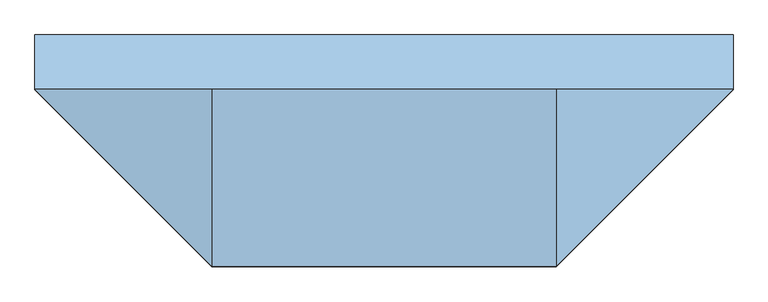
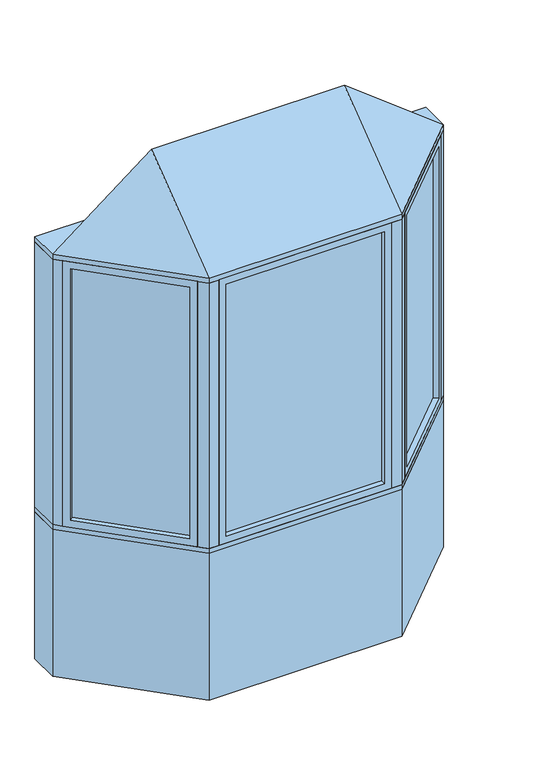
"""IFC4 building model written with IfcOpenShell, lengths in millimetres: window geometry, Pollard_Windows_Tudor Casement Bows and Bays : AML-BAY 45 AFR0614-08-600."""

from ifc_helpers import new_model, si_unit, frame, origin, origin_with_axes, place, context, project, spatial, polyline, outline, extrude, faceted_brep, source, transform, mapped, element, save


def window_c93a87d1(model_context):
    return source(origin(), model_context, "Body", "SolidModel", [
        extrude(outline(polyline([(910.5964271, -104.763169), (514.974814, -500.3847822), (511.3827115, -496.7926797), (907.0043247, -101.1710666), (910.5964271, -104.763169)])), frame((0.0, 0.0, 823.1628), z_axis=(0.0, 0.0, 1.0), x_axis=(1.0, 0.0, 0.0)), (0.0, 0.0, 1.0), 1353.6704),
        faceted_brep([(901.616171, -113.7434252, 835.8628), (919.5766833, -131.7039374, 835.8628), (919.5766833, -131.7039374, 2164.1332), (901.616171, -113.7434252, 2164.1332), (907.0043247, -101.1710666, 823.1628), (910.5964271, -104.763169, 823.1628), (910.5964271, -104.763169, 2176.8332), (907.0043247, -101.1710666, 2176.8332), (880.0635563, -92.1908105, 835.8628), (898.0240686, -110.1513227, 835.8628), (898.0240686, -110.1513227, 2164.1332), (880.0635563, -92.1908105, 2164.1332), (944.9369265, -106.3436941, 799.998), (905.4237996, -66.8305672, 799.998), (905.4237996, -66.8305672, 2199.998), (944.9369265, -106.3436941, 2199.998), (541.9155823, -509.3650383, 2164.1332), (523.9550701, -491.4045261, 2164.1332), (514.974814, -500.3847822, 2176.8332), (511.3827115, -496.7926797, 2176.8332), (520.3629677, -487.8124236, 2164.1332), (502.4024554, -469.8519114, 2164.1332), (477.0422121, -495.2121547, 2199.998), (516.5553391, -534.7252816, 2199.998), (541.9155823, -509.3650383, 835.8628), (523.9550701, -491.4045261, 835.8628), (514.974814, -500.3847822, 823.1628), (511.3827115, -496.7926797, 823.1628), (520.3629677, -487.8124236, 835.8628), (502.4024554, -469.8519114, 835.8628), (477.0422121, -495.2121547, 799.998), (516.5553391, -534.7252816, 799.998)], [[[0, 1, 2, 3]], [[4, 5, 6, 7]], [[8, 9, 10, 11]], [[12, 13, 14, 15]], [[3, 2, 16, 17]], [[7, 6, 18, 19]], [[11, 10, 20, 21]], [[15, 14, 22, 23]], [[17, 16, 24, 25]], [[19, 18, 26, 27]], [[21, 20, 28, 29]], [[23, 22, 30, 31]], [[25, 24, 1, 0]], [[5, 26, 18, 6], [3, 17, 25, 0]], [[27, 26, 5, 4]], [[7, 19, 27, 4], [9, 28, 20, 10]], [[29, 28, 9, 8]], [[13, 30, 22, 14], [11, 21, 29, 8]], [[31, 30, 13, 12]], [[15, 23, 31, 12], [1, 24, 16, 2]]]),
        extrude(outline(polyline([(-514.974814, -500.3847822), (-910.5964271, -104.763169), (-907.0043247, -101.1710666), (-511.3827115, -496.7926797), (-514.974814, -500.3847822)])), frame((0.0, 0.0, 823.1628), z_axis=(0.0, 0.0, 1.0), x_axis=(1.0, 0.0, 0.0)), (0.0, 0.0, 1.0), 1353.6704),
        faceted_brep([(-520.3629677, -487.8124236, 2164.1332), (-502.4024554, -469.8519114, 2164.1332), (-502.4024554, -469.8519114, 835.8628), (-520.3629677, -487.8124236, 835.8628), (-514.974814, -500.3847822, 2176.8332), (-511.3827115, -496.7926797, 2176.8332), (-511.3827115, -496.7926797, 823.1628), (-514.974814, -500.3847822, 823.1628), (-541.9155823, -509.3650383, 2164.1332), (-523.9550701, -491.4045261, 2164.1332), (-523.9550701, -491.4045261, 835.8628), (-541.9155823, -509.3650383, 835.8628), (-477.0422121, -495.2121547, 2199.998), (-516.5553391, -534.7252816, 2199.998), (-516.5553391, -534.7252816, 799.998), (-477.0422121, -495.2121547, 799.998), (-880.0635563, -92.1908105, 835.8628), (-898.0240686, -110.1513227, 835.8628), (-907.0043247, -101.1710666, 823.1628), (-910.5964271, -104.763169, 823.1628), (-901.616171, -113.7434252, 835.8628), (-919.5766833, -131.7039374, 835.8628), (-944.9369265, -106.3436941, 799.998), (-905.4237996, -66.8305672, 799.998), (-880.0635563, -92.1908105, 2164.1332), (-898.0240686, -110.1513227, 2164.1332), (-907.0043247, -101.1710666, 2176.8332), (-910.5964271, -104.763169, 2176.8332), (-901.616171, -113.7434252, 2164.1332), (-919.5766833, -131.7039374, 2164.1332), (-944.9369265, -106.3436941, 2199.998), (-905.4237996, -66.8305672, 2199.998)], [[[0, 1, 2, 3]], [[4, 5, 6, 7]], [[8, 9, 10, 11]], [[12, 13, 14, 15]], [[3, 2, 16, 17]], [[7, 6, 18, 19]], [[11, 10, 20, 21]], [[15, 14, 22, 23]], [[17, 16, 24, 25]], [[19, 18, 26, 27]], [[21, 20, 28, 29]], [[23, 22, 30, 31]], [[15, 23, 31, 12], [1, 24, 16, 2]], [[25, 24, 1, 0]], [[5, 26, 18, 6], [3, 17, 25, 0]], [[27, 26, 5, 4]], [[7, 19, 27, 4], [9, 28, 20, 10]], [[29, 28, 9, 8]], [[13, 30, 22, 14], [11, 21, 29, 8]], [[31, 30, 13, 12]]]),
        extrude(outline(polyline([(408.0352, -544.6806207), (-408.0352, -544.6806207), (-408.0352, -539.6006207), (408.0352, -539.6006207), (408.0352, -544.6806207)])), frame((0.0, 0.0, 823.1628), z_axis=(0.0, 0.0, 1.0), x_axis=(1.0, 0.0, 0.0)), (0.0, 0.0, 1.0), 1353.6704),
        faceted_brep([(395.3352, -544.6806207, 835.8628), (395.3352, -570.0806207, 835.8628), (395.3352, -570.0806207, 2164.1332), (395.3352, -544.6806207, 2164.1332), (408.0352, -539.6006207, 823.1628), (408.0352, -544.6806207, 823.1628), (408.0352, -544.6806207, 2176.8332), (408.0352, -539.6006207, 2176.8332), (395.3352, -514.2006207, 835.8628), (395.3352, -539.6006207, 835.8628), (395.3352, -539.6006207, 2164.1332), (395.3352, -514.2006207, 2164.1332), (431.2, -570.0806207, 799.998), (431.2, -514.2006207, 799.998), (431.2, -514.2006207, 2199.998), (431.2, -570.0806207, 2199.998), (-395.3352, -570.0806207, 2164.1332), (-395.3352, -544.6806207, 2164.1332), (-408.0352, -544.6806207, 2176.8332), (-408.0352, -539.6006207, 2176.8332), (-395.3352, -539.6006207, 2164.1332), (-395.3352, -514.2006207, 2164.1332), (-431.2, -514.2006207, 2199.998), (-431.2, -570.0806207, 2199.998), (-395.3352, -570.0806207, 835.8628), (-395.3352, -544.6806207, 835.8628), (-408.0352, -544.6806207, 823.1628), (-408.0352, -539.6006207, 823.1628), (-395.3352, -539.6006207, 835.8628), (-395.3352, -514.2006207, 835.8628), (-431.2, -514.2006207, 799.998), (-431.2, -570.0806207, 799.998)], [[[0, 1, 2, 3]], [[4, 5, 6, 7]], [[8, 9, 10, 11]], [[12, 13, 14, 15]], [[3, 2, 16, 17]], [[7, 6, 18, 19]], [[11, 10, 20, 21]], [[15, 14, 22, 23]], [[17, 16, 24, 25]], [[19, 18, 26, 27]], [[21, 20, 28, 29]], [[23, 22, 30, 31]], [[15, 23, 31, 12], [1, 24, 16, 2]], [[25, 24, 1, 0]], [[5, 26, 18, 6], [3, 17, 25, 0]], [[27, 26, 5, 4]], [[7, 19, 27, 4], [9, 28, 20, 10]], [[29, 28, 9, 8]], [[13, 30, 22, 14], [11, 21, 29, 8]], [[31, 30, 13, 12]]]),
        faceted_brep([(976.5, -74.7806207, 2225.398), (481.2, -570.0806207, 2225.398), (-481.2, -570.0806207, 2225.398), (-976.5, -74.7806207, 2225.398), (-481.2, -74.7806207, 2606.398), (481.2, -74.7806207, 2606.398)], [[[0, 1, 2, 3]], [[3, 2, 4]], [[2, 1, 5, 4]], [[1, 0, 5]], [[0, 3, 4, 5]]]),
        extrude(outline(polyline([(-976.5, 77.6193793), (976.5, 77.6193793), (976.5, -74.7806207), (481.2, -570.0806207), (-481.2, -570.0806207), (-976.5, -74.7806207), (-976.5, 77.6193793)])), frame((0.0, 0.0, 2199.998), z_axis=(0.0, 0.0, 1.0), x_axis=(1.0, 0.0, 0.0)), (0.0, 0.0, 1.0), 25.4),
        extrude(outline(polyline([(-976.5, -74.7806207), (-976.5, 77.6193793), (-913.3738531, 77.6193793), (-913.3738531, -74.7806207), (-944.9369265, -106.3436941), (-976.5, -74.7806207)])), frame((0.0, 0.0, 799.998), z_axis=(0.0, 0.0, 1.0), x_axis=(1.0, 0.0, 0.0)), (0.0, 0.0, 1.0), 1400.0),
        extrude(outline(polyline([(976.5, 77.6193793), (976.5, -74.7806207), (944.9369265, -106.3436941), (913.3738531, -74.7806207), (913.3738531, 77.6193793), (976.5, 77.6193793)])), frame((0.0, 0.0, 799.998), z_axis=(0.0, 0.0, 1.0), x_axis=(1.0, 0.0, 0.0)), (0.0, 0.0, 1.0), 1400.0),
        extrude(outline(polyline([(481.2, -570.0806207), (431.2, -570.0806207), (431.2, -520.0806207), (460.4893219, -520.0806207), (481.2, -499.3699425), (516.5553391, -534.7252816), (481.2, -570.0806207)])), frame((0.0, 0.0, 799.998), z_axis=(0.0, 0.0, 1.0), x_axis=(1.0, 0.0, 0.0)), (0.0, 0.0, 1.0), 1400.0),
        extrude(outline(polyline([(-481.2, -570.0806207), (-516.5553391, -534.7252816), (-481.2, -499.3699425), (-460.4893219, -520.0806207), (-431.2, -520.0806207), (-431.2, -570.0806207), (-481.2, -570.0806207)])), frame((0.0, 0.0, 799.998), z_axis=(0.0, 0.0, 1.0), x_axis=(1.0, 0.0, 0.0)), (0.0, 0.0, 1.0), 1400.0),
        extrude(outline(polyline([(-481.2, -570.0806207), (-976.5, -74.7806207), (-976.5, 77.6193793), (-913.3738531, 77.6193793), (-418.0738531, -417.6806207), (418.0738531, -417.6806207), (913.3738531, 77.6193793), (976.5, 77.6193793), (976.5, -74.7806207), (481.2, -570.0806207), (-481.2, -570.0806207)])), frame((0.0, 0.0, 774.598), z_axis=(0.0, 0.0, 1.0), x_axis=(1.0, 0.0, 0.0)), (0.0, 0.0, 1.0), 25.4),
        extrude(outline(polyline([(-976.5, -74.7806207), (-976.5, 77.6193793), (-913.3738531, 77.6193793), (-418.0738531, -417.6806207), (418.0738531, -417.6806207), (913.3738531, 77.6193793), (976.5, 77.6193793), (976.5, -74.7806207), (481.2, -570.0806207), (-481.2, -570.0806207), (-976.5, -74.7806207)])), origin_with_axes(), (0.0, 0.0, 1.0), 774.598),
    ])


if __name__ == "__main__":
    model = new_model("IFC4")
    model_context = context("Model", 3, world=origin())
    ifc_project = project(units=[si_unit("LENGTHUNIT", "METRE", prefix="MILLI")], contexts=[model_context])
    site = spatial("IfcSite", under=ifc_project)
    building = spatial("IfcBuilding", under=site)
    placement = place(None, origin())
    window_shape = window_c93a87d1(model_context)
    element("IfcWindow", 1, ObjectType="Pollard_Windows_Tudor Casement Bows and Bays : AML-BAY 45 AFR0614-08-600", at=placement, inside=building, context=model_context, shape_type="MappedRepresentation", body=[
        mapped(window_shape, transform((0.0, 0.0, 0.0), x_axis=(1.0, 0.0, 0.0), y_axis=(0.0, 1.0, 0.0), z_axis=(0.0, 0.0, 1.0))),
    ])
    save(model, "model.ifc")
